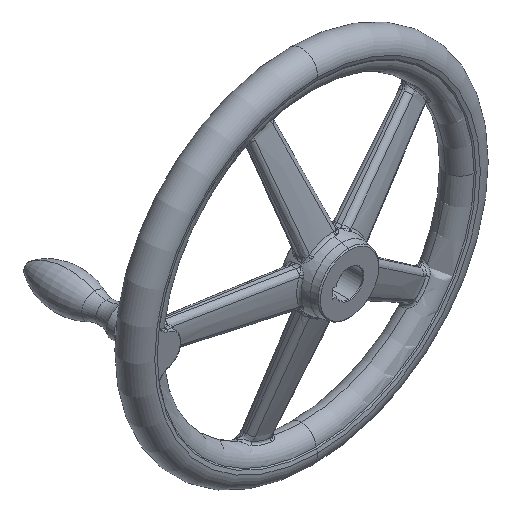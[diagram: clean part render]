
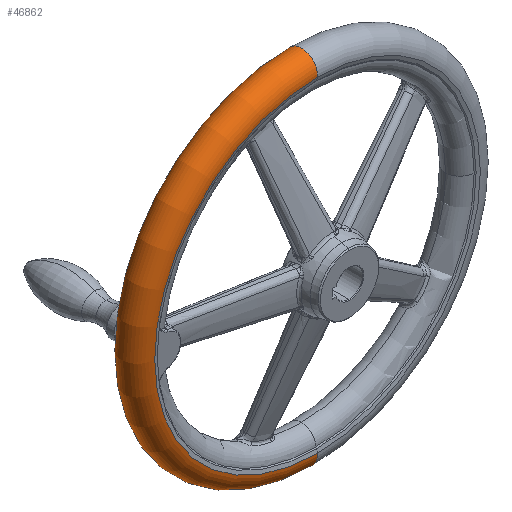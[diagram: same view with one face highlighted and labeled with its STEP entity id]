
A CAD part, isometric view. The second image highlights one B-rep face of the part: STEP entity #46862.
In plain terms, the highlighted toroidal (fillet/blend) face has major radius 143.462 mm and minor radius 14.039 mm.
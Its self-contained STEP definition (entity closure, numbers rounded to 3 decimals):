
#46 = DIRECTION ( 'NONE',  ( 0., 0., -1. ) ) ;
#48 = DIRECTION ( 'NONE',  ( 0., -1., 0. ) ) ;
#50 = CARTESIAN_POINT ( 'NONE',  ( 0., 56., 0. ) ) ;
#51 = AXIS2_PLACEMENT_3D ( 'NONE', #50, #48, #46 ) ;
#1658 = DIRECTION ( 'NONE',  ( 0., 0., -1. ) ) ;
#1660 = DIRECTION ( 'NONE',  ( 1., 0., 0. ) ) ;
#1661 = CARTESIAN_POINT ( 'NONE',  ( 0., 42., 143.462 ) ) ;
#1663 = AXIS2_PLACEMENT_3D ( 'NONE', #1661, #1660, #1658 ) ;
#1664 = CIRCLE ( 'NONE', #1663, 14.038 ) ;
#5069 = FACE_OUTER_BOUND ( 'NONE', #46108, .T. ) ;
#5145 = DIRECTION ( 'NONE',  ( 0., 0., -1. ) ) ;
#5147 = DIRECTION ( 'NONE',  ( 0., -1., 0. ) ) ;
#5148 = CARTESIAN_POINT ( 'NONE',  ( 0., 42., 0. ) ) ;
#5150 = AXIS2_PLACEMENT_3D ( 'NONE', #5148, #5147, #5145 ) ;
#5151 = TOROIDAL_SURFACE ( 'NONE', #5150, 143.462, 14.038 ) ;
#41396 = VERTEX_POINT ( 'NONE', #48565 ) ;
#41482 = EDGE_CURVE ( 'NONE', #41838, #41396, #48735, .T. ) ;
#41722 = VERTEX_POINT ( 'NONE', #49855 ) ;
#41838 = VERTEX_POINT ( 'NONE', #50008 ) ;
#42103 = EDGE_CURVE ( 'NONE', #41722, #41396, #50782, .T. ) ;
#42732 = VERTEX_POINT ( 'NONE', #51951 ) ;
#42870 = EDGE_CURVE ( 'NONE', #42732, #41722, #51943, .T. ) ;
#44981 = EDGE_CURVE ( 'NONE', #42732, #41838, #1664, .T. ) ;
#46049 = ORIENTED_EDGE ( 'NONE', *, *, #42870, .T. ) ;
#46099 = ORIENTED_EDGE ( 'NONE', *, *, #41482, .F. ) ;
#46108 = EDGE_LOOP ( 'NONE', ( #46808, #46049, #46806, #46099 ) ) ;
#46806 = ORIENTED_EDGE ( 'NONE', *, *, #42103, .T. ) ;
#46808 = ORIENTED_EDGE ( 'NONE', *, *, #44981, .F. ) ;
#46862 = ADVANCED_FACE ( 'NONE', ( #5069 ), #5151, .T. ) ;
#48565 = CARTESIAN_POINT ( 'NONE',  ( 0., 28., -142.423 ) ) ;
#48707 = DIRECTION ( 'NONE',  ( 0., 0., -1. ) ) ;
#48709 = DIRECTION ( 'NONE',  ( 0., -1., 0. ) ) ;
#48710 = AXIS2_PLACEMENT_3D ( 'NONE', #48740, #48709, #48707 ) ;
#48735 = CIRCLE ( 'NONE', #48710, 142.423 ) ;
#48740 = CARTESIAN_POINT ( 'NONE',  ( 0., 28., 0. ) ) ;
#49855 = CARTESIAN_POINT ( 'NONE',  ( 0., 56., -142.423 ) ) ;
#50008 = CARTESIAN_POINT ( 'NONE',  ( 0., 28., 142.423 ) ) ;
#50775 = AXIS2_PLACEMENT_3D ( 'NONE', #50792, #50858, #50857 ) ;
#50782 = CIRCLE ( 'NONE', #50775, 14.038 ) ;
#50792 = CARTESIAN_POINT ( 'NONE',  ( 0., 42., -143.462 ) ) ;
#50857 = DIRECTION ( 'NONE',  ( 0., 0., 1. ) ) ;
#50858 = DIRECTION ( 'NONE',  ( -1., 0., 0. ) ) ;
#51943 = CIRCLE ( 'NONE', #51, 142.423 ) ;
#51951 = CARTESIAN_POINT ( 'NONE',  ( 0., 56., 142.423 ) ) ;
